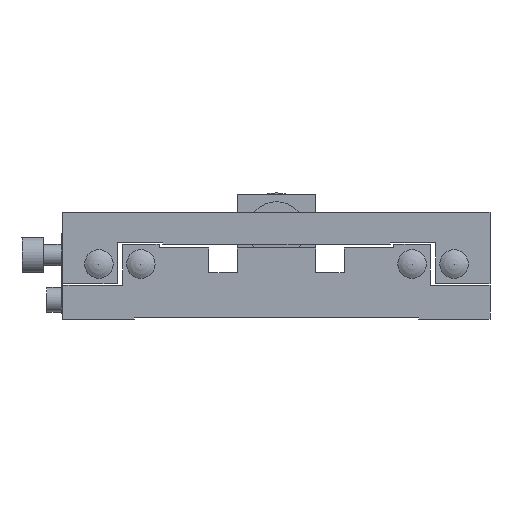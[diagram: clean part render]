
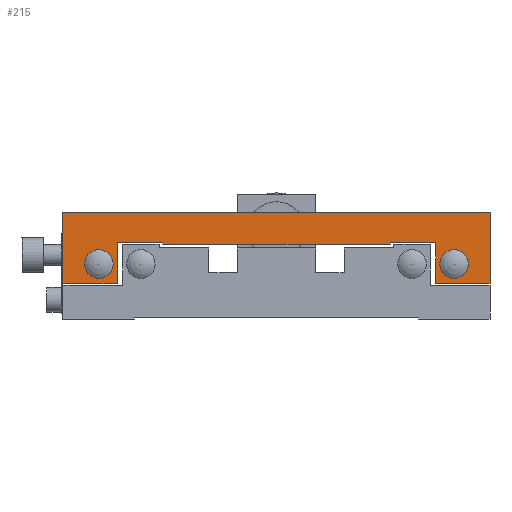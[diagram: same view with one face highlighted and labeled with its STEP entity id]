
A CAD part, left-side view. The second image highlights one B-rep face of the part: STEP entity #215.
In plain terms, the highlighted planar face has unit normal (-1, 0, 0).
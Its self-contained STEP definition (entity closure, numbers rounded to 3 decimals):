
#215 = ADVANCED_FACE( '', ( #582, #583, #584 ), #585, .T. );
#582 = FACE_OUTER_BOUND( '', #1258, .T. );
#583 = FACE_BOUND( '', #1259, .T. );
#584 = FACE_BOUND( '', #1260, .T. );
#585 = PLANE( '', #1261 );
#1258 = EDGE_LOOP( '', ( #1920, #1921, #1922, #1923, #1924, #1925, #1926, #1927, #1928, #1929, #1930, #1931 ) );
#1259 = EDGE_LOOP( '', ( #1932 ) );
#1260 = EDGE_LOOP( '', ( #1933 ) );
#1261 = AXIS2_PLACEMENT_3D( '', #1934, #1935, #1936 );
#1920 = ORIENTED_EDGE( '', *, *, #3233, .F. );
#1921 = ORIENTED_EDGE( '', *, *, #3234, .T. );
#1922 = ORIENTED_EDGE( '', *, *, #3235, .T. );
#1923 = ORIENTED_EDGE( '', *, *, #3236, .T. );
#1924 = ORIENTED_EDGE( '', *, *, #3237, .T. );
#1925 = ORIENTED_EDGE( '', *, *, #3238, .T. );
#1926 = ORIENTED_EDGE( '', *, *, #3239, .F. );
#1927 = ORIENTED_EDGE( '', *, *, #3240, .T. );
#1928 = ORIENTED_EDGE( '', *, *, #3241, .T. );
#1929 = ORIENTED_EDGE( '', *, *, #3242, .T. );
#1930 = ORIENTED_EDGE( '', *, *, #3243, .F. );
#1931 = ORIENTED_EDGE( '', *, *, #3244, .T. );
#1932 = ORIENTED_EDGE( '', *, *, #3245, .F. );
#1933 = ORIENTED_EDGE( '', *, *, #3246, .T. );
#1934 = CARTESIAN_POINT( '', ( -60., 0., 10. ) );
#1935 = DIRECTION( '', ( -1., 0., 0. ) );
#1936 = DIRECTION( '', ( 0., 1., 0. ) );
#3233 = EDGE_CURVE( '', #3730, #3731, #3732, .T. );
#3234 = EDGE_CURVE( '', #3730, #3733, #3734, .T. );
#3235 = EDGE_CURVE( '', #3733, #3735, #3736, .T. );
#3236 = EDGE_CURVE( '', #3735, #3737, #3738, .T. );
#3237 = EDGE_CURVE( '', #3737, #3739, #3740, .T. );
#3238 = EDGE_CURVE( '', #3739, #3741, #3742, .T. );
#3239 = EDGE_CURVE( '', #3743, #3741, #3744, .T. );
#3240 = EDGE_CURVE( '', #3743, #3745, #3746, .T. );
#3241 = EDGE_CURVE( '', #3745, #3747, #3748, .T. );
#3242 = EDGE_CURVE( '', #3747, #3749, #3750, .T. );
#3243 = EDGE_CURVE( '', #3751, #3749, #3752, .T. );
#3244 = EDGE_CURVE( '', #3751, #3731, #3753, .T. );
#3245 = EDGE_CURVE( '', #3754, #3754, #3755, .T. );
#3246 = EDGE_CURVE( '', #3756, #3756, #3757, .F. );
#3730 = VERTEX_POINT( '', #4467 );
#3731 = VERTEX_POINT( '', #4468 );
#3732 = LINE( '', #4469, #4470 );
#3733 = VERTEX_POINT( '', #4471 );
#3734 = LINE( '', #4472, #4473 );
#3735 = VERTEX_POINT( '', #4474 );
#3736 = LINE( '', #4475, #4476 );
#3737 = VERTEX_POINT( '', #4477 );
#3738 = LINE( '', #4478, #4479 );
#3739 = VERTEX_POINT( '', #4480 );
#3740 = LINE( '', #4481, #4482 );
#3741 = VERTEX_POINT( '', #4483 );
#3742 = LINE( '', #4484, #4485 );
#3743 = VERTEX_POINT( '', #4486 );
#3744 = LINE( '', #4487, #4488 );
#3745 = VERTEX_POINT( '', #4489 );
#3746 = LINE( '', #4490, #4491 );
#3747 = VERTEX_POINT( '', #4492 );
#3748 = LINE( '', #4493, #4494 );
#3749 = VERTEX_POINT( '', #4495 );
#3750 = LINE( '', #4496, #4497 );
#3751 = VERTEX_POINT( '', #4498 );
#3752 = LINE( '', #4499, #4500 );
#3753 = LINE( '', #4501, #4502 );
#3754 = VERTEX_POINT( '', #4503 );
#3755 = CIRCLE( '', #4504, 4. );
#3756 = VERTEX_POINT( '', #4505 );
#3757 = CIRCLE( '', #4506, 4. );
#4467 = CARTESIAN_POINT( '', ( -60., 44.8, 21.5 ) );
#4468 = CARTESIAN_POINT( '', ( -60., 44.8, 10. ) );
#4469 = CARTESIAN_POINT( '', ( -60., 44.8, 21. ) );
#4470 = VECTOR( '', #5442, 1000. );
#4471 = CARTESIAN_POINT( '', ( -60., 32., 21.5 ) );
#4472 = CARTESIAN_POINT( '', ( -60., 0., 21.5 ) );
#4473 = VECTOR( '', #5443, 1000. );
#4474 = CARTESIAN_POINT( '', ( -60., 32., 21. ) );
#4475 = CARTESIAN_POINT( '', ( -60., 32., 10. ) );
#4476 = VECTOR( '', #5444, 1000. );
#4477 = CARTESIAN_POINT( '', ( -60., -32., 21. ) );
#4478 = CARTESIAN_POINT( '', ( -60., 0., 21. ) );
#4479 = VECTOR( '', #5445, 1000. );
#4480 = CARTESIAN_POINT( '', ( -60., -32., 21.5 ) );
#4481 = CARTESIAN_POINT( '', ( -60., -32., 10. ) );
#4482 = VECTOR( '', #5446, 1000. );
#4483 = CARTESIAN_POINT( '', ( -60., -44.8, 21.5 ) );
#4484 = CARTESIAN_POINT( '', ( -60., 0., 21.5 ) );
#4485 = VECTOR( '', #5447, 1000. );
#4486 = CARTESIAN_POINT( '', ( -60., -44.8, 10. ) );
#4487 = CARTESIAN_POINT( '', ( -60., -44.8, 21. ) );
#4488 = VECTOR( '', #5448, 1000. );
#4489 = CARTESIAN_POINT( '', ( -60., -60., 10. ) );
#4490 = CARTESIAN_POINT( '', ( -60., 0., 10. ) );
#4491 = VECTOR( '', #5449, 1000. );
#4492 = CARTESIAN_POINT( '', ( -60., -60., 30. ) );
#4493 = CARTESIAN_POINT( '', ( -60., -60., 10. ) );
#4494 = VECTOR( '', #5450, 1000. );
#4495 = CARTESIAN_POINT( '', ( -60., 60., 30. ) );
#4496 = CARTESIAN_POINT( '', ( -60., 0., 30. ) );
#4497 = VECTOR( '', #5451, 1000. );
#4498 = CARTESIAN_POINT( '', ( -60., 60., 10. ) );
#4499 = CARTESIAN_POINT( '', ( -60., 60., 10. ) );
#4500 = VECTOR( '', #5452, 1000. );
#4501 = CARTESIAN_POINT( '', ( -60., 0., 10. ) );
#4502 = VECTOR( '', #5453, 1000. );
#4503 = CARTESIAN_POINT( '', ( -60., -49.9, 19.5 ) );
#4504 = AXIS2_PLACEMENT_3D( '', #5454, #5455, #5456 );
#4505 = CARTESIAN_POINT( '', ( -60., 49.9, 19.5 ) );
#4506 = AXIS2_PLACEMENT_3D( '', #5457, #5458, #5459 );
#5442 = DIRECTION( '', ( 0., 0., -1. ) );
#5443 = DIRECTION( '', ( 0., -1., 0. ) );
#5444 = DIRECTION( '', ( 0., 0., -1. ) );
#5445 = DIRECTION( '', ( 0., -1., 0. ) );
#5446 = DIRECTION( '', ( 0., 0., 1. ) );
#5447 = DIRECTION( '', ( 0., -1., 0. ) );
#5448 = DIRECTION( '', ( 0., 0., 1. ) );
#5449 = DIRECTION( '', ( 0., -1., 0. ) );
#5450 = DIRECTION( '', ( 0., 0., 1. ) );
#5451 = DIRECTION( '', ( 0., 1., 0. ) );
#5452 = DIRECTION( '', ( 0., 0., 1. ) );
#5453 = DIRECTION( '', ( 0., -1., 0. ) );
#5454 = CARTESIAN_POINT( '', ( -60., -49.9, 15.5 ) );
#5455 = DIRECTION( '', ( -1., 0., 0. ) );
#5456 = DIRECTION( '', ( 0., 0., 1. ) );
#5457 = CARTESIAN_POINT( '', ( -60., 49.9, 15.5 ) );
#5458 = DIRECTION( '', ( -1., 0., 0. ) );
#5459 = DIRECTION( '', ( 0., 0., 1. ) );
